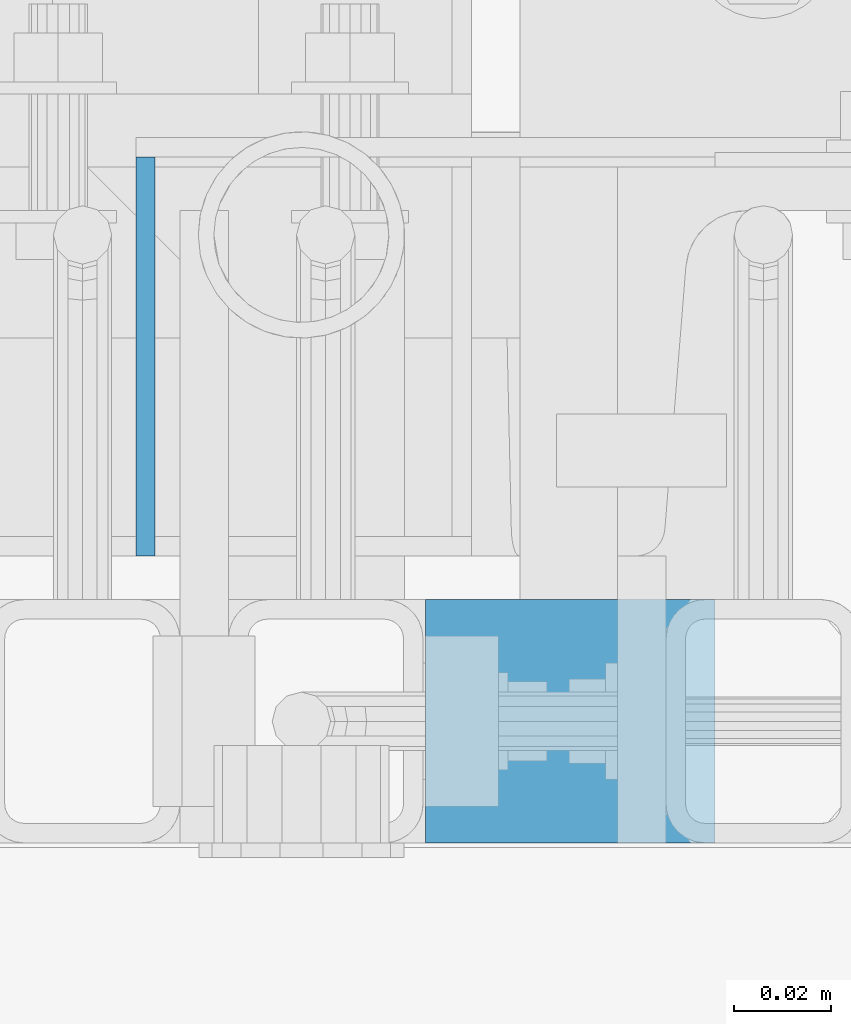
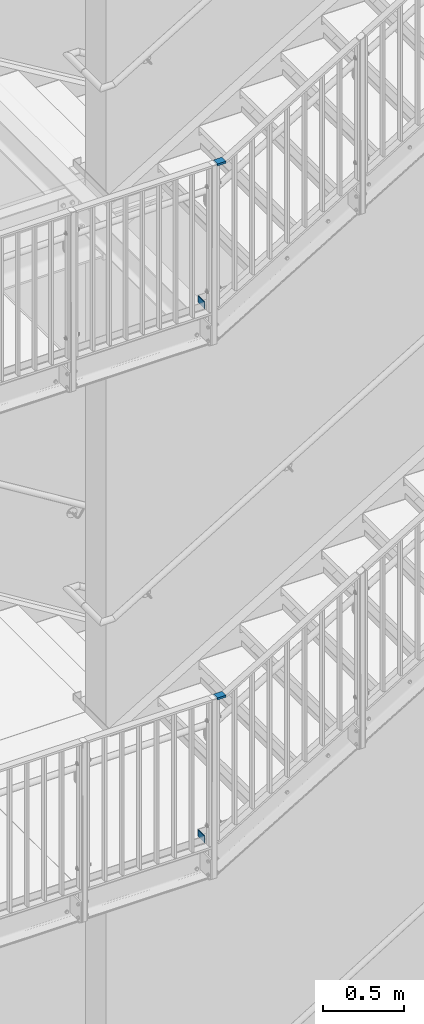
# One storey, part 45 of 410: 4 beams.
"""IFC2X3 building model written with IfcOpenShell, lengths in millimetres."""

from ifc_helpers import new_model, entity, si_unit, converted_unit, frame, origin, origin_with_axes, origin_2d, place, context, project, spatial, rectangle, extrude, material, element, save


model = new_model("IFC2X3")

# Units and contexts
model_context = context("Model", 3, precision=1e-09, world=origin_with_axes())
ifc_project = project(units=[si_unit("LENGTHUNIT", "METRE", prefix="MILLI"), si_unit("AREAUNIT", "SQUARE_METRE"), si_unit("VOLUMEUNIT", "CUBIC_METRE"), converted_unit("PLANEANGLEUNIT", "DEGREE", entity("IfcPlaneAngleMeasure", 0.01745329), si_unit("PLANEANGLEUNIT", "RADIAN"), dimensions=[0, 0, 0, 0, 0, 0, 0])], contexts=[model_context])

# Site, building, storey
site_placement = place(None, origin_with_axes())
site = spatial("IfcSite", under=ifc_project, at=site_placement, Name="mKR Teilneubau & Sanierung BA1 - Ostfildern", CompositionType="ELEMENT")
building_placement = place(site_placement, origin_with_axes())
building = spatial("IfcBuilding", under=site, at=building_placement, Name="Struktur 1", CompositionType="ELEMENT")
storey_placement = place(building_placement, origin_with_axes())
storey = spatial("IfcBuildingStorey", under=building, at=storey_placement, Name="Default Storey", CompositionType="ELEMENT", Elevation=0.0)

# Beams
ifc_material = material(Name="S235JR")
for number, where, z_axis, x_axis in (
    (1, (-1822.050110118, 15439.999999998, 25.0), (0.0, -1.0, 0.0), (1.0, 0.0, 0.0)),
    (2, (-1822.050110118, 15439.999999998, 4025.0), (0.0, -1.0, 0.0), (1.0, 0.0, 0.0)),
):
    element("IfcBeam", number, at=place(None, frame(where, z_axis=z_axis, x_axis=x_axis)), inside=storey, material=ifc_material, Name="-", ObjectType="-", context=model_context, shape_type="SweptSolid", body=[
        extrude(rectangle(XDim=4.0, YDim=50.0, at=origin_2d()), origin(), (0.0, 0.0, -1.0), 82.001),
    ])
for number, where, z_axis, x_axis in (
    (3, (-1705.0, 15405.999999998, 5092.5), (1.0, 0.0, 0.0), (0.0, 0.0, 1.0)),
    (4, (-1705.0, 15405.999999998, 1092.5), (1.0, 0.0, 0.0), (0.0, 0.0, 1.0)),
):
    element("IfcBeam", number, at=place(None, frame(where, z_axis=z_axis, x_axis=x_axis)), inside=storey, material=ifc_material, Name="-", ObjectType="-", context=model_context, shape_type="SweptSolid", body=[
        extrude(rectangle(XDim=15.0, YDim=50.0, at=origin_2d()), origin(), (0.0, 0.0, -1.0), 59.49853167),
    ])

save(model, "model.ifc")
